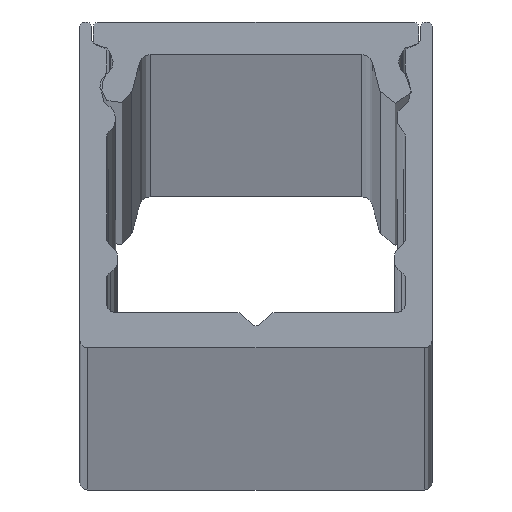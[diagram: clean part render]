
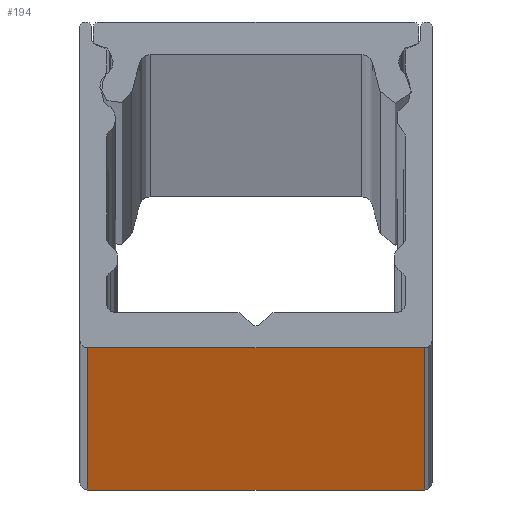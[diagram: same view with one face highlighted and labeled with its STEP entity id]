
A CAD part, top view. The second image highlights one B-rep face of the part: STEP entity #194.
In plain terms, the highlighted planar face has unit normal (0, -1, 0).
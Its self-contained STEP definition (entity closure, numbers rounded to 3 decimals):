
#32 = VECTOR ( 'NONE', #771, 1000. ) ;
#194 = ADVANCED_FACE ( 'NONE', ( #1362 ), #1856, .T. ) ;
#206 = VERTEX_POINT ( 'NONE', #3090 ) ;
#216 = DIRECTION ( 'NONE',  ( 0., 0., 1. ) ) ;
#375 = DIRECTION ( 'NONE',  ( 0., 0., -1. ) ) ;
#423 = EDGE_CURVE ( 'NONE', #2063, #578, #2987, .T. ) ;
#436 = VECTOR ( 'NONE', #2379, 1000. ) ;
#466 = ORIENTED_EDGE ( 'NONE', *, *, #1055, .T. ) ;
#578 = VERTEX_POINT ( 'NONE', #588 ) ;
#588 = CARTESIAN_POINT ( 'NONE',  ( 6.2, 0., 0. ) ) ;
#697 = VECTOR ( 'NONE', #216, 1000. ) ;
#771 = DIRECTION ( 'NONE',  ( 1., 0., 0. ) ) ;
#829 = LINE ( 'NONE', #1829, #32 ) ;
#843 = AXIS2_PLACEMENT_3D ( 'NONE', #2573, #1430, #375 ) ;
#1055 = EDGE_CURVE ( 'NONE', #2286, #578, #2608, .T. ) ;
#1199 = EDGE_LOOP ( 'NONE', ( #2783, #1386, #1788, #466 ) ) ;
#1362 = FACE_OUTER_BOUND ( 'NONE', #1199, .T. ) ;
#1386 = ORIENTED_EDGE ( 'NONE', *, *, #2064, .F. ) ;
#1430 = DIRECTION ( 'NONE',  ( 0., -1., 0. ) ) ;
#1459 = CARTESIAN_POINT ( 'NONE',  ( -6.2, 0., -3000. ) ) ;
#1486 = CARTESIAN_POINT ( 'NONE',  ( -6.2, 0., 0. ) ) ;
#1549 = DIRECTION ( 'NONE',  ( 1., 0., 0. ) ) ;
#1788 = ORIENTED_EDGE ( 'NONE', *, *, #3121, .T. ) ;
#1829 = CARTESIAN_POINT ( 'NONE',  ( -6.2, 0., -3000. ) ) ;
#1856 = PLANE ( 'NONE',  #843 ) ;
#1877 = CARTESIAN_POINT ( 'NONE',  ( 6.2, 0., -3000. ) ) ;
#2063 = VERTEX_POINT ( 'NONE', #1486 ) ;
#2064 = EDGE_CURVE ( 'NONE', #206, #2063, #2452, .T. ) ;
#2286 = VERTEX_POINT ( 'NONE', #1877 ) ;
#2379 = DIRECTION ( 'NONE',  ( 0., 0., 1. ) ) ;
#2452 = LINE ( 'NONE', #1459, #697 ) ;
#2573 = CARTESIAN_POINT ( 'NONE',  ( -6.2, 0., -3000. ) ) ;
#2608 = LINE ( 'NONE', #3125, #436 ) ;
#2722 = VECTOR ( 'NONE', #1549, 1000. ) ;
#2783 = ORIENTED_EDGE ( 'NONE', *, *, #423, .F. ) ;
#2969 = CARTESIAN_POINT ( 'NONE',  ( -6.2, 0., 0. ) ) ;
#2987 = LINE ( 'NONE', #2969, #2722 ) ;
#3090 = CARTESIAN_POINT ( 'NONE',  ( -6.2, 0., -3000. ) ) ;
#3121 = EDGE_CURVE ( 'NONE', #206, #2286, #829, .T. ) ;
#3125 = CARTESIAN_POINT ( 'NONE',  ( 6.2, 0., -3000. ) ) ;
